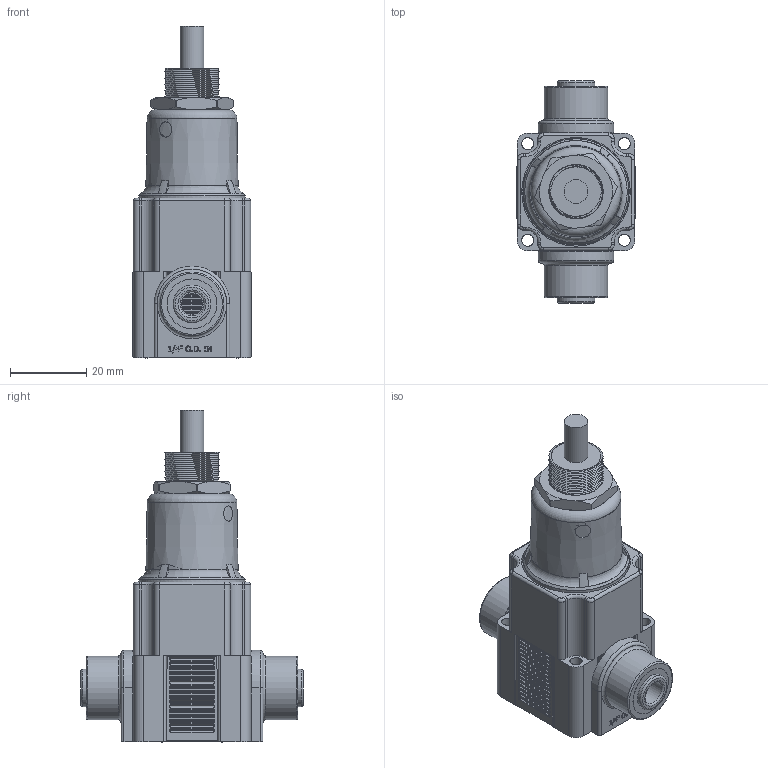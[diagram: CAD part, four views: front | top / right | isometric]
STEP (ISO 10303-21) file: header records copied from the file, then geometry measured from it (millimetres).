
FILE_DESCRIPTION(/* description */ (''),/* implementation_level */ '2;1');
FILE_NAME(/* name */ 'K:\Normteile INVENTOR\Air-Logic\Regulators\NR4000\R70605B5BWS for Promo Box.ipt.stp',/* time_stamp */ '2020-05-27T10:52:08+02:00',/* author */ ('JHayden'),/* organization */ (''),/* preprocessor_version */ 'ST-DEVELOPER v18',/* originating_system */ 'Autodesk Inventor 2020',/* authorisation */ '');
FILE_SCHEMA (('AUTOMOTIVE_DESIGN { 1 0 10303 214 3 1 1 }'));
Products named in the file (1): R70605B5BWS for Promo Box
Bounding box: 31.19 x 58.42 x 87.31 mm (x, y, z)
Volume: 103671.3 mm3; surface area: 32954.9 mm2
Topology: 2 solids, 2 shells, 1468 faces, 3782 edges, 2470 vertices
Faces by surface type: plane 762, cylinder 526, bspline 90, torus 52, cone 38
Full cylindrical faces by diameter (mm): 3.175 x8, 3.988 x2, 5.639 x2, 6.223 x2, 6.35 x2, 9.169 x2, 9.398 x2, 9.906 x2, 12.903 x2, 13.132 x2, 13.145 x2, 14.288 x6, 16.764 x2, 26.264 x2, 27.94 x2, 28.575 x2
Entity records: 61264 total; most frequent: CARTESIAN_POINT 23465, DIRECTION 7704, ORIENTED_EDGE 7564, EDGE_CURVE 3782, AXIS2_PLACEMENT_3D 2927, VERTEX_POINT 2470, LINE 1850, VECTOR 1850
